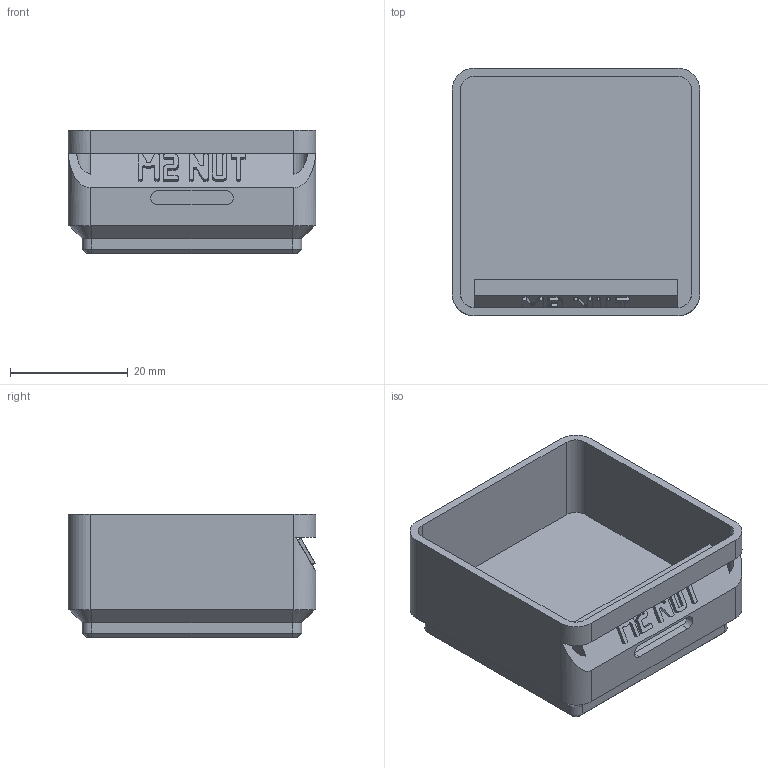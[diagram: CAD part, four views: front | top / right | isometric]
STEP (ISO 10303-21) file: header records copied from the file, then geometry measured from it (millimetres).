
FILE_DESCRIPTION(('Open CASCADE Model'),'2;1');
FILE_NAME('Open CASCADE Shape Model','2026-11-03T17:13:36',('Author'),( 'Open CASCADE'),'Open CASCADE STEP processor 8.0','build123d', 'Unknown');
FILE_SCHEMA(('AUTOMOTIVE_DESIGN { 1 0 10303 214 1 1 1 1 }'));
Length unit declared in the file: millimetre
Products named in the file (1): COMPOUND
Bounding box: 42 x 42 x 21 mm (x, y, z)
Volume: 12849 mm3; surface area: 9288.5 mm2
Topology: 1 solids, 1 shells, 468 faces, 1365 edges, 904 vertices
Faces by surface type: plane 446, cylinder 14, cone 8
Entity records: 32062 total; most frequent: CARTESIAN_POINT 6466, DIRECTION 4147, LINE 3093, VECTOR 3093, ORIENTED_EDGE 2730, PCURVE 2730, DEFINITIONAL_REPRESENTATION 2730, EDGE_CURVE 1365
